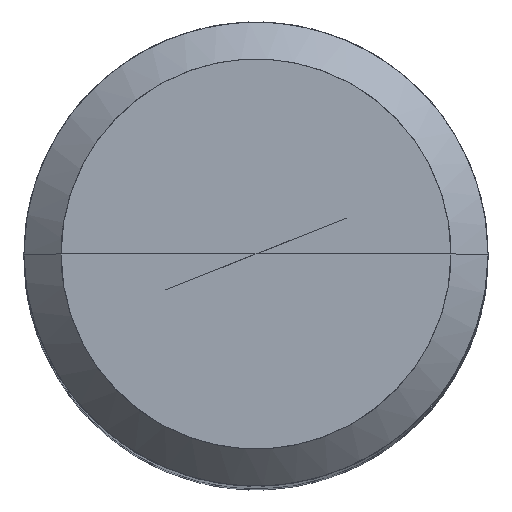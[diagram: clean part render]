
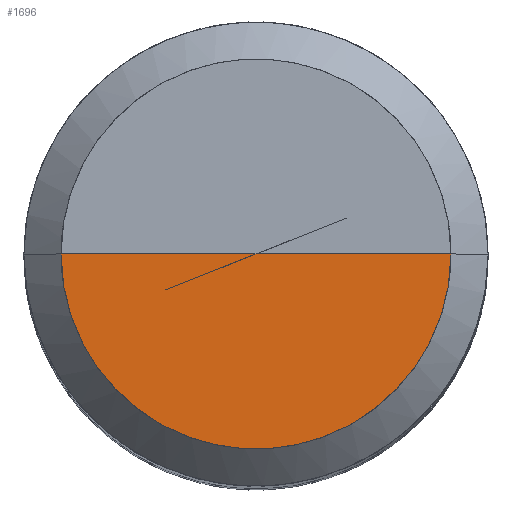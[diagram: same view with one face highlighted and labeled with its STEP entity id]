
A CAD part, top view. The second image highlights one B-rep face of the part: STEP entity #1696.
In plain terms, the highlighted free-form (B-spline) face has degree [1, 2] with [2, 5] control points.
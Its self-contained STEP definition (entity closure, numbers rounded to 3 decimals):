
#1387=CARTESIAN_POINT('',(8.4,0.0,60.0));
#1391=CARTESIAN_POINT('',(-8.4,0.0,60.0));
#1392=CARTESIAN_POINT('',(0.0,0.0,60.0));
#1396=CARTESIAN_POINT('',(-8.4,-8.4,60.0));
#1397=CARTESIAN_POINT('',(0.0,-8.4,60.0));
#1398=CARTESIAN_POINT('',(8.4,-8.4,60.0));
#1681=(
BOUNDED_SURFACE()
B_SPLINE_SURFACE(1,2,(
(#1391,#1396,#1397,#1398,#1387),
(#1392,#1392,#1392,#1392,#1392)
), .UNSPECIFIED.,.F.,.F.,.F.)
B_SPLINE_SURFACE_WITH_KNOTS((2,2),(3,2,3),(
0.0,1.0),(
0.0,0.5,1.0), .UNSPECIFIED.)
GEOMETRIC_REPRESENTATION_ITEM()
RATIONAL_B_SPLINE_SURFACE(((1.0,0.707,1.0,0.707,1.0),
(1.0,0.707,1.0,0.707,1.0)
))
REPRESENTATION_ITEM('')
SURFACE()
);
#1682=(
BOUNDED_CURVE()
B_SPLINE_CURVE(2,(#1387,#1398,#1397,#1396,#1391),.UNSPECIFIED.,.F.,.F.)
B_SPLINE_CURVE_WITH_KNOTS((3,2,3),
(0.0,0.5,1.0),.UNSPECIFIED.)
CURVE()
GEOMETRIC_REPRESENTATION_ITEM()
RATIONAL_B_SPLINE_CURVE((1.0,0.707,1.0,0.707,1.0))
REPRESENTATION_ITEM('')
);
#1683=(
BOUNDED_CURVE()
B_SPLINE_CURVE(1,(#1391,#1392),.UNSPECIFIED.,.F.,.F.)
B_SPLINE_CURVE_WITH_KNOTS((2,2),
(0.0,1.0),.UNSPECIFIED.)
CURVE()
GEOMETRIC_REPRESENTATION_ITEM()
RATIONAL_B_SPLINE_CURVE((1.0,1.0))
REPRESENTATION_ITEM('')
);
#1684=(
BOUNDED_CURVE()
B_SPLINE_CURVE(1,(#1392,#1387),.UNSPECIFIED.,.F.,.F.)
B_SPLINE_CURVE_WITH_KNOTS((2,2),
(0.0,1.0),.UNSPECIFIED.)
CURVE()
GEOMETRIC_REPRESENTATION_ITEM()
RATIONAL_B_SPLINE_CURVE((1.0,1.0))
REPRESENTATION_ITEM('')
);
#1685=VERTEX_POINT('',#1387);
#1686=VERTEX_POINT('',#1391);
#1687=VERTEX_POINT('',#1392);
#1688=EDGE_CURVE('',#1685,#1686,#1682,.T.);
#1689=EDGE_CURVE('',#1686,#1687,#1683,.T.);
#1690=EDGE_CURVE('',#1687,#1685,#1684,.T.);
#1691=ORIENTED_EDGE('',*,*,#1688,.T.);
#1692=ORIENTED_EDGE('',*,*,#1689,.T.);
#1693=ORIENTED_EDGE('',*,*,#1690,.T.);
#1694=EDGE_LOOP('',(#1691,#1692,#1693));
#1695=FACE_OUTER_BOUND('',#1694,.T.);
#1696=ADVANCED_FACE('',(#1695),#1681,.T.);
